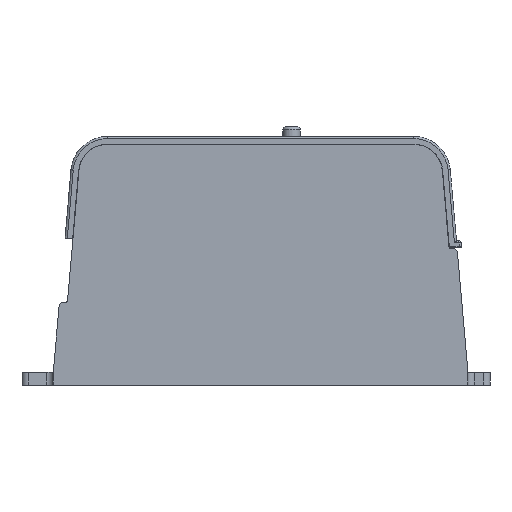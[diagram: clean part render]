
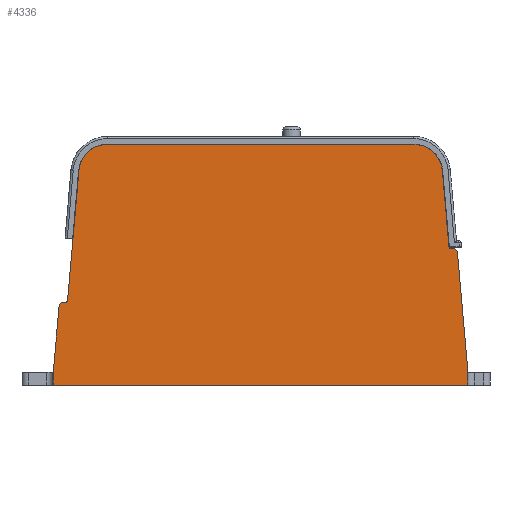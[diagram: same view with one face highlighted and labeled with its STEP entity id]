
A CAD part, front view. The second image highlights one B-rep face of the part: STEP entity #4336.
In plain terms, the highlighted planar face has unit normal (0, -1, 0).
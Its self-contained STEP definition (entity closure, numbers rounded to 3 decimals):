
#116=LINE('',#6531,#542);
#138=LINE('',#6616,#564);
#139=LINE('',#6621,#565);
#140=LINE('',#6625,#566);
#141=LINE('',#6629,#567);
#142=LINE('',#6633,#568);
#143=LINE('',#6637,#569);
#144=LINE('',#6641,#570);
#145=LINE('',#6643,#571);
#146=LINE('',#6644,#572);
#542=VECTOR('',#5197,1000.);
#564=VECTOR('',#5263,1000.);
#565=VECTOR('',#5266,1000.);
#566=VECTOR('',#5269,1000.);
#567=VECTOR('',#5272,1000.);
#568=VECTOR('',#5275,1000.);
#569=VECTOR('',#5278,1000.);
#570=VECTOR('',#5281,1000.);
#571=VECTOR('',#5282,1000.);
#572=VECTOR('',#5283,1000.);
#951=PLANE('',#4672);
#1228=ORIENTED_EDGE('',*,*,#2458,.T.);
#1229=ORIENTED_EDGE('',*,*,#2459,.T.);
#1230=ORIENTED_EDGE('',*,*,#2460,.T.);
#1231=ORIENTED_EDGE('',*,*,#2461,.T.);
#1232=ORIENTED_EDGE('',*,*,#2462,.T.);
#1233=ORIENTED_EDGE('',*,*,#2463,.T.);
#1234=ORIENTED_EDGE('',*,*,#2464,.F.);
#1235=ORIENTED_EDGE('',*,*,#2465,.T.);
#1236=ORIENTED_EDGE('',*,*,#2466,.T.);
#1237=ORIENTED_EDGE('',*,*,#2467,.T.);
#1238=ORIENTED_EDGE('',*,*,#2468,.T.);
#1239=ORIENTED_EDGE('',*,*,#2469,.T.);
#1240=ORIENTED_EDGE('',*,*,#2470,.F.);
#1241=ORIENTED_EDGE('',*,*,#2471,.F.);
#1242=ORIENTED_EDGE('',*,*,#2416,.F.);
#1243=ORIENTED_EDGE('',*,*,#2472,.F.);
#2416=EDGE_CURVE('',#3041,#3042,#116,.T.);
#2458=EDGE_CURVE('',#3083,#3084,#138,.T.);
#2459=EDGE_CURVE('',#3084,#3085,#3454,.F.);
#2460=EDGE_CURVE('',#3085,#3086,#139,.T.);
#2461=EDGE_CURVE('',#3086,#3087,#3455,.T.);
#2462=EDGE_CURVE('',#3087,#3088,#140,.T.);
#2463=EDGE_CURVE('',#3088,#3089,#3456,.F.);
#2464=EDGE_CURVE('',#3090,#3089,#141,.T.);
#2465=EDGE_CURVE('',#3090,#3091,#3457,.F.);
#2466=EDGE_CURVE('',#3091,#3092,#142,.T.);
#2467=EDGE_CURVE('',#3092,#3093,#3458,.T.);
#2468=EDGE_CURVE('',#3093,#3094,#143,.T.);
#2469=EDGE_CURVE('',#3094,#3095,#3459,.F.);
#2470=EDGE_CURVE('',#3096,#3095,#144,.T.);
#2471=EDGE_CURVE('',#3042,#3096,#145,.T.);
#2472=EDGE_CURVE('',#3083,#3041,#146,.T.);
#3041=VERTEX_POINT('',#6530);
#3042=VERTEX_POINT('',#6532);
#3083=VERTEX_POINT('',#6617);
#3084=VERTEX_POINT('',#6618);
#3085=VERTEX_POINT('',#6620);
#3086=VERTEX_POINT('',#6622);
#3087=VERTEX_POINT('',#6624);
#3088=VERTEX_POINT('',#6626);
#3089=VERTEX_POINT('',#6628);
#3090=VERTEX_POINT('',#6630);
#3091=VERTEX_POINT('',#6632);
#3092=VERTEX_POINT('',#6634);
#3093=VERTEX_POINT('',#6636);
#3094=VERTEX_POINT('',#6638);
#3095=VERTEX_POINT('',#6640);
#3096=VERTEX_POINT('',#6642);
#3454=CIRCLE('',#4673,1.5);
#3455=CIRCLE('',#4674,0.5);
#3456=CIRCLE('',#4675,9.);
#3457=CIRCLE('',#4676,9.);
#3458=CIRCLE('',#4677,0.5);
#3459=CIRCLE('',#4678,1.5);
#3650=EDGE_LOOP('',(#1228,#1229,#1230,#1231,#1232,#1233,#1234,#1235,#1236,
#1237,#1238,#1239,#1240,#1241,#1242,#1243));
#3954=FACE_BOUND('',#3650,.T.);
#4336=ADVANCED_FACE('',(#3954),#951,.F.);
#4672=AXIS2_PLACEMENT_3D('',#6615,#5261,#5262);
#4673=AXIS2_PLACEMENT_3D('',#6619,#5264,#5265);
#4674=AXIS2_PLACEMENT_3D('',#6623,#5267,#5268);
#4675=AXIS2_PLACEMENT_3D('',#6627,#5270,#5271);
#4676=AXIS2_PLACEMENT_3D('',#6631,#5273,#5274);
#4677=AXIS2_PLACEMENT_3D('',#6635,#5276,#5277);
#4678=AXIS2_PLACEMENT_3D('',#6639,#5279,#5280);
#5197=DIRECTION('',(-1.,0.,0.));
#5261=DIRECTION('',(0.,1.,0.));
#5262=DIRECTION('',(0.,0.,1.));
#5263=DIRECTION('',(-0.087,0.,0.996));
#5264=DIRECTION('',(0.,1.,0.));
#5265=DIRECTION('',(0.,0.,1.));
#5266=DIRECTION('',(-1.,0.,0.));
#5267=DIRECTION('',(0.,1.,0.));
#5268=DIRECTION('',(0.,0.,1.));
#5269=DIRECTION('',(-0.087,0.,0.996));
#5270=DIRECTION('',(0.,1.,0.));
#5271=DIRECTION('',(0.,0.,1.));
#5272=DIRECTION('',(1.,0.,0.));
#5273=DIRECTION('',(0.,1.,0.));
#5274=DIRECTION('',(0.,0.,1.));
#5275=DIRECTION('',(-0.087,0.,-0.996));
#5276=DIRECTION('',(0.,1.,0.));
#5277=DIRECTION('',(0.,0.,1.));
#5278=DIRECTION('',(-1.,0.,0.));
#5279=DIRECTION('',(0.,1.,0.));
#5280=DIRECTION('',(0.,0.,1.));
#5281=DIRECTION('',(0.087,0.,0.996));
#5282=DIRECTION('',(0.,0.,1.));
#5283=DIRECTION('',(0.,0.,-1.));
#6530=CARTESIAN_POINT('',(65.,0.,-37.75));
#6531=CARTESIAN_POINT('',(65.,0.,-37.75));
#6532=CARTESIAN_POINT('',(-65.,0.,-37.75));
#6615=CARTESIAN_POINT('',(0.,0.,0.));
#6616=CARTESIAN_POINT('',(61.576,0.,5.387));
#6617=CARTESIAN_POINT('',(65.,0.,-33.75));
#6618=CARTESIAN_POINT('',(61.725,0.,3.681));
#6619=CARTESIAN_POINT('',(60.231,0.,3.55));
#6620=CARTESIAN_POINT('',(60.231,0.,5.05));
#6621=CARTESIAN_POINT('',(0.,0.,5.05));
#6622=CARTESIAN_POINT('',(59.554,0.,5.05));
#6623=CARTESIAN_POINT('',(59.554,0.,5.55));
#6624=CARTESIAN_POINT('',(59.056,0.,5.506));
#6625=CARTESIAN_POINT('',(59.085,0.,5.169));
#6626=CARTESIAN_POINT('',(56.954,0.,29.534));
#6627=CARTESIAN_POINT('',(47.988,0.,28.75));
#6628=CARTESIAN_POINT('',(47.988,0.,37.75));
#6629=CARTESIAN_POINT('',(-65.,0.,37.75));
#6630=CARTESIAN_POINT('',(-47.988,0.,37.75));
#6631=CARTESIAN_POINT('',(-47.988,0.,28.75));
#6632=CARTESIAN_POINT('',(-56.954,0.,29.534));
#6633=CARTESIAN_POINT('',(-59.085,0.,5.169));
#6634=CARTESIAN_POINT('',(-60.526,0.,-11.294));
#6635=CARTESIAN_POINT('',(-61.024,0.,-11.25));
#6636=CARTESIAN_POINT('',(-61.024,0.,-11.75));
#6637=CARTESIAN_POINT('',(0.,0.,-11.75));
#6638=CARTESIAN_POINT('',(-61.701,0.,-11.75));
#6639=CARTESIAN_POINT('',(-61.701,0.,-13.25));
#6640=CARTESIAN_POINT('',(-63.195,0.,-13.119));
#6641=CARTESIAN_POINT('',(-61.576,0.,5.387));
#6642=CARTESIAN_POINT('',(-65.,0.,-33.75));
#6643=CARTESIAN_POINT('',(-65.,0.,-37.75));
#6644=CARTESIAN_POINT('',(65.,0.,37.75));
